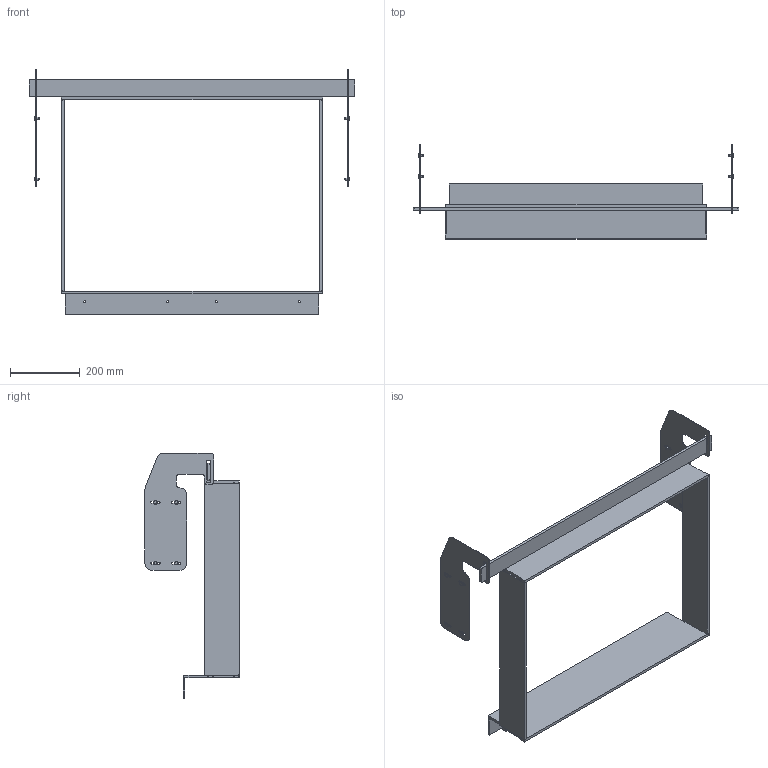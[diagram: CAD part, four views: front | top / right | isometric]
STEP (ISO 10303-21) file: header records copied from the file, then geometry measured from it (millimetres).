
FILE_DESCRIPTION(/* description */ (''),/* implementation_level */ '2;1');
FILE_NAME(/* name */ 'C:\Users\jku\Desktop\Violino\55x73_2015-03083.stp',/* time_stamp */ '2021-10-27T15:31:41+02:00',/* author */ ('JKU'),/* organization */ (''),/* preprocessor_version */ 'ST-DEVELOPER v18.1',/* originating_system */ 'Autodesk Inventor 2022',/* authorisation */ '');
FILE_SCHEMA (('AUTOMOTIVE_DESIGN { 1 0 10303 214 3 1 1 }'));
Length unit declared in the file: millimetre
Products named in the file (9): 2015-03083; 2015-03087; 2015-03084; 2015-03085; 2015-03086; 2015-03088; 2016-04186; ISO 4017 - M6 x 12; ISO 7092 - ST 5 - 140 HV
Assembly tree (24 placements, depth 2):
  2015-03083
    2015-03087
    2015-03084
    2015-03085  x2
    2015-03086
    2015-03088
    2016-04186  x2
    ISO 4017 - M6 x 12  x8
    ISO 7092 - ST 5 - 140 HV  x8
Bounding box: 936 x 270 x 705.72 mm (x, y, z)
Volume: 3092668.1 mm3; surface area: 1029558.5 mm2
Topology: 24 solids, 24 shells, 380 faces, 900 edges, 584 vertices
Faces by surface type: plane 200, cylinder 124, cone 56
Full cylindrical faces by diameter (mm): 5.2 x4, 5.3 x8, 6 x8, 8.88 x8, 9 x8
Entity records: 5535 total; most frequent: DIRECTION 950, CARTESIAN_POINT 927, ORIENTED_EDGE 852, EDGE_CURVE 426, AXIS2_PLACEMENT_3D 341, VERTEX_POINT 282, LINE 268, VECTOR 268
